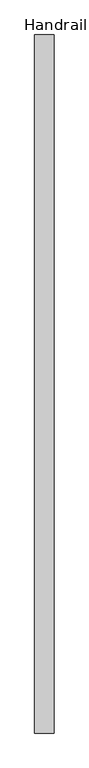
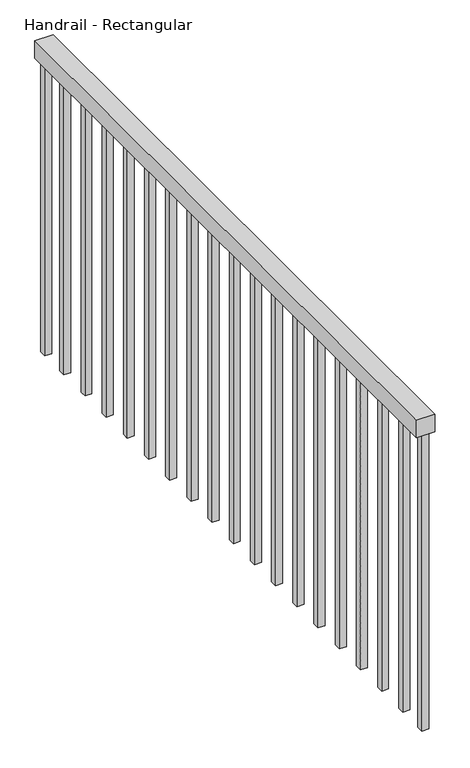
"""IFC4 building model written with IfcOpenShell, lengths in millimetres: railing geometry, Handrail - Rectangular."""

from ifc_helpers import new_model, si_unit, frame, origin, place, context, project, spatial, polyline, outline, extrude, source, transform, mapped, element, save


def handrail_rectangular_40be649f(model_context):
    return source(origin(), model_context, "Body", "SweptSolid", [
        extrude(outline(polyline([(93207.7894926, 8126.5763375), (93258.5894926, 8126.5763375), (93258.5894926, 6297.7763375), (93207.7894926, 6297.7763375), (93207.7894926, 8126.5763375)])), frame((0.0, 0.0, 4292.6), z_axis=(0.0, 0.0, 1.0), x_axis=(1.0, 0.0, 0.0)), (0.0, 0.0, 1.0), 50.8),
        extrude(outline(polyline([(93223.6644926, 6408.9013375), (93242.7144926, 6408.9013375), (93242.7144926, 6389.8513375), (93223.6644926, 6389.8513375), (93223.6644926, 6408.9013375)])), frame((0.0, 0.0, 3429.0), z_axis=(0.0, 0.0, 1.0), x_axis=(1.0, 0.0, 0.0)), (0.0, 0.0, 1.0), 863.6),
        extrude(outline(polyline([(93223.6644926, 6510.5013375), (93242.7144926, 6510.5013375), (93242.7144926, 6491.4513375), (93223.6644926, 6491.4513375), (93223.6644926, 6510.5013375)])), frame((0.0, 0.0, 3429.0), z_axis=(0.0, 0.0, 1.0), x_axis=(1.0, 0.0, 0.0)), (0.0, 0.0, 1.0), 863.6),
        extrude(outline(polyline([(93223.6644926, 6612.1013375), (93242.7144926, 6612.1013375), (93242.7144926, 6593.0513375), (93223.6644926, 6593.0513375), (93223.6644926, 6612.1013375)])), frame((0.0, 0.0, 3429.0), z_axis=(0.0, 0.0, 1.0), x_axis=(1.0, 0.0, 0.0)), (0.0, 0.0, 1.0), 863.6),
        extrude(outline(polyline([(93223.6644926, 6713.7013375), (93242.7144926, 6713.7013375), (93242.7144926, 6694.6513375), (93223.6644926, 6694.6513375), (93223.6644926, 6713.7013375)])), frame((0.0, 0.0, 3429.0), z_axis=(0.0, 0.0, 1.0), x_axis=(1.0, 0.0, 0.0)), (0.0, 0.0, 1.0), 863.6),
        extrude(outline(polyline([(93223.6644926, 6815.3013375), (93242.7144926, 6815.3013375), (93242.7144926, 6796.2513375), (93223.6644926, 6796.2513375), (93223.6644926, 6815.3013375)])), frame((0.0, 0.0, 3429.0), z_axis=(0.0, 0.0, 1.0), x_axis=(1.0, 0.0, 0.0)), (0.0, 0.0, 1.0), 863.6),
        extrude(outline(polyline([(93223.6644926, 6916.9013375), (93242.7144926, 6916.9013375), (93242.7144926, 6897.8513375), (93223.6644926, 6897.8513375), (93223.6644926, 6916.9013375)])), frame((0.0, 0.0, 3429.0), z_axis=(0.0, 0.0, 1.0), x_axis=(1.0, 0.0, 0.0)), (0.0, 0.0, 1.0), 863.6),
        extrude(outline(polyline([(93223.6644926, 7018.5013375), (93242.7144926, 7018.5013375), (93242.7144926, 6999.4513375), (93223.6644926, 6999.4513375), (93223.6644926, 7018.5013375)])), frame((0.0, 0.0, 3429.0), z_axis=(0.0, 0.0, 1.0), x_axis=(1.0, 0.0, 0.0)), (0.0, 0.0, 1.0), 863.6),
        extrude(outline(polyline([(93223.6644926, 7120.1013375), (93242.7144926, 7120.1013375), (93242.7144926, 7101.0513375), (93223.6644926, 7101.0513375), (93223.6644926, 7120.1013375)])), frame((0.0, 0.0, 3429.0), z_axis=(0.0, 0.0, 1.0), x_axis=(1.0, 0.0, 0.0)), (0.0, 0.0, 1.0), 863.6),
        extrude(outline(polyline([(93223.6644926, 7221.7013375), (93242.7144926, 7221.7013375), (93242.7144926, 7202.6513375), (93223.6644926, 7202.6513375), (93223.6644926, 7221.7013375)])), frame((0.0, 0.0, 3429.0), z_axis=(0.0, 0.0, 1.0), x_axis=(1.0, 0.0, 0.0)), (0.0, 0.0, 1.0), 863.6),
        extrude(outline(polyline([(93223.6644926, 7323.3013375), (93242.7144926, 7323.3013375), (93242.7144926, 7304.2513375), (93223.6644926, 7304.2513375), (93223.6644926, 7323.3013375)])), frame((0.0, 0.0, 3429.0), z_axis=(0.0, 0.0, 1.0), x_axis=(1.0, 0.0, 0.0)), (0.0, 0.0, 1.0), 863.6),
        extrude(outline(polyline([(93223.6644926, 7424.9013375), (93242.7144926, 7424.9013375), (93242.7144926, 7405.8513375), (93223.6644926, 7405.8513375), (93223.6644926, 7424.9013375)])), frame((0.0, 0.0, 3429.0), z_axis=(0.0, 0.0, 1.0), x_axis=(1.0, 0.0, 0.0)), (0.0, 0.0, 1.0), 863.6),
        extrude(outline(polyline([(93223.6644926, 7526.5013375), (93242.7144926, 7526.5013375), (93242.7144926, 7507.4513375), (93223.6644926, 7507.4513375), (93223.6644926, 7526.5013375)])), frame((0.0, 0.0, 3429.0), z_axis=(0.0, 0.0, 1.0), x_axis=(1.0, 0.0, 0.0)), (0.0, 0.0, 1.0), 863.6),
        extrude(outline(polyline([(93223.6644926, 7628.1013375), (93242.7144926, 7628.1013375), (93242.7144926, 7609.0513375), (93223.6644926, 7609.0513375), (93223.6644926, 7628.1013375)])), frame((0.0, 0.0, 3429.0), z_axis=(0.0, 0.0, 1.0), x_axis=(1.0, 0.0, 0.0)), (0.0, 0.0, 1.0), 863.6),
        extrude(outline(polyline([(93223.6644926, 7729.7013375), (93242.7144926, 7729.7013375), (93242.7144926, 7710.6513375), (93223.6644926, 7710.6513375), (93223.6644926, 7729.7013375)])), frame((0.0, 0.0, 3429.0), z_axis=(0.0, 0.0, 1.0), x_axis=(1.0, 0.0, 0.0)), (0.0, 0.0, 1.0), 863.6),
        extrude(outline(polyline([(93223.6644926, 7831.3013375), (93242.7144926, 7831.3013375), (93242.7144926, 7812.2513375), (93223.6644926, 7812.2513375), (93223.6644926, 7831.3013375)])), frame((0.0, 0.0, 3429.0), z_axis=(0.0, 0.0, 1.0), x_axis=(1.0, 0.0, 0.0)), (0.0, 0.0, 1.0), 863.6),
        extrude(outline(polyline([(93223.6644926, 7932.9013375), (93242.7144926, 7932.9013375), (93242.7144926, 7913.8513375), (93223.6644926, 7913.8513375), (93223.6644926, 7932.9013375)])), frame((0.0, 0.0, 3429.0), z_axis=(0.0, 0.0, 1.0), x_axis=(1.0, 0.0, 0.0)), (0.0, 0.0, 1.0), 863.6),
        extrude(outline(polyline([(93223.6644926, 8034.5013375), (93242.7144926, 8034.5013375), (93242.7144926, 8015.4513375), (93223.6644926, 8015.4513375), (93223.6644926, 8034.5013375)])), frame((0.0, 0.0, 3429.0), z_axis=(0.0, 0.0, 1.0), x_axis=(1.0, 0.0, 0.0)), (0.0, 0.0, 1.0), 863.6),
        extrude(outline(polyline([(93223.6644926, 6316.8263375), (93242.7144926, 6316.8263375), (93242.7144926, 6297.7763375), (93223.6644926, 6297.7763375), (93223.6644926, 6316.8263375)])), frame((0.0, 0.0, 3429.0), z_axis=(0.0, 0.0, 1.0), x_axis=(1.0, 0.0, 0.0)), (0.0, 0.0, 1.0), 863.6),
        extrude(outline(polyline([(93223.6644926, 8126.5763375), (93242.7144926, 8126.5763375), (93242.7144926, 8107.5263375), (93223.6644926, 8107.5263375), (93223.6644926, 8126.5763375)])), frame((0.0, 0.0, 3429.0), z_axis=(0.0, 0.0, 1.0), x_axis=(1.0, 0.0, 0.0)), (0.0, 0.0, 1.0), 863.6),
    ])


if __name__ == "__main__":
    model = new_model("IFC4")
    model_context = context("Model", 3, world=origin())
    ifc_project = project(units=[si_unit("LENGTHUNIT", "METRE", prefix="MILLI")], contexts=[model_context])
    site = spatial("IfcSite", under=ifc_project)
    building = spatial("IfcBuilding", under=site)
    placement = place(None, origin())
    handrail_rectangular_shape = handrail_rectangular_40be649f(model_context)
    element("IfcRailing", 1, ObjectType="Handrail - Rectangular", at=placement, inside=building, context=model_context, shape_type="MappedRepresentation", body=[
        mapped(handrail_rectangular_shape, transform((0.0, 0.0, 0.0), x_axis=(1.0, 0.0, 0.0), y_axis=(0.0, 1.0, 0.0), z_axis=(0.0, 0.0, 1.0))),
    ])
    save(model, "model.ifc")
